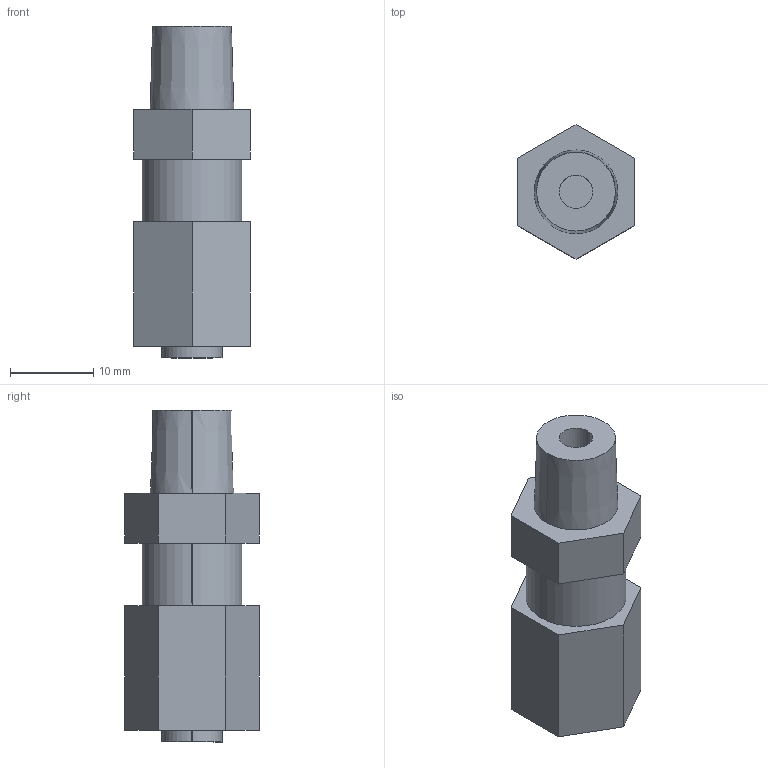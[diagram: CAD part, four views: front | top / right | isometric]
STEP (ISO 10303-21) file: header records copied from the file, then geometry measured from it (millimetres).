
FILE_DESCRIPTION(/* description */ ('SolidWorks IGES FILE using analytic representation for surfaces '),/* implementation_level */ '2;1');
FILE_NAME(/* name */ 'FZ-17-6.step',/* time_stamp */ '2025-07-15T11:43:46+09:00',/* author */ (''),/* organization */ (''),/* preprocessor_version */ 'ST-DEVELOPER v20.1',/* originating_system */ 'Autodesk Translation Framework v14.10.0.0',/* authorisation */ '');
FILE_SCHEMA (('AUTOMOTIVE_DESIGN { 1 0 10303 214 3 1 1 }'));
Length unit declared in the file: millimetre
Products named in the file (2): (未保存); KCT06-010E
Assembly tree (1 placements, depth 2):
  (未保存)
    KCT06-010E
Bounding box: 14 x 16.17 x 39.9 mm (x, y, z)
Surface area: 2565.6 mm2 (no closed solid volume)
Topology: 0 solids, 30 shells, 30 faces, 122 edges, 122 vertices
Faces by surface type: plane 20, cylinder 8, cone 2
Entity records: 1404 total; most frequent: CARTESIAN_POINT 277, DIRECTION 218, VERTEX_POINT 122, EDGE_CURVE 122, ORIENTED_EDGE 122, LINE 92, VECTOR 92, AXIS2_PLACEMENT_3D 63
